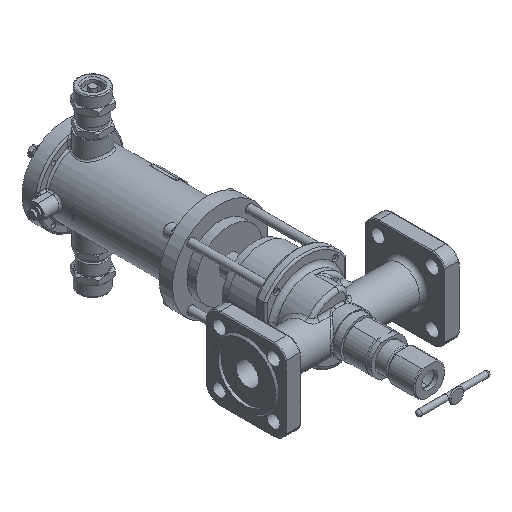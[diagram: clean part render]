
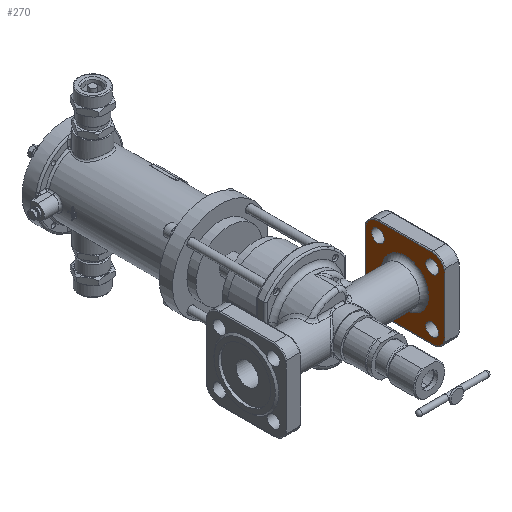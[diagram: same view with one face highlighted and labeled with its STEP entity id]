
A CAD part, isometric view. The second image highlights one B-rep face of the part: STEP entity #270.
In plain terms, the highlighted planar face has unit normal (-1, 0, 0).
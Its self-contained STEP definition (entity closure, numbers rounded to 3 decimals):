
#270=ADVANCED_FACE('',(#7063,#7065,#7067,#7069,#7071,#7073),#7075,.T.);
#7063=FACE_BOUND('',#7064,.T.);
#7064=EDGE_LOOP('',(#22193));
#7065=FACE_BOUND('',#7066,.T.);
#7066=EDGE_LOOP('',(#22194));
#7067=FACE_BOUND('',#7068,.T.);
#7068=EDGE_LOOP('',(#22195));
#7069=FACE_BOUND('',#7070,.T.);
#7070=EDGE_LOOP('',(#22196));
#7071=FACE_BOUND('',#7072,.T.);
#7072=EDGE_LOOP('',(#22197));
#7073=FACE_OUTER_BOUND('',#7074,.T.);
#7074=EDGE_LOOP('',(#22198,#22199,#22200,#22201,#22202,#22203,#22204,#22205));
#7075=PLANE('',#7076);
#7076=AXIS2_PLACEMENT_3D('',#7077,#7078,#7079);
#7077=CARTESIAN_POINT('',(80.,0.,0.));
#7078=DIRECTION('',(-1.,0.,0.));
#7079=DIRECTION('',(0.,1.,0.));
#22193=ORIENTED_EDGE('',*,*,#33857,.F.);
#22194=ORIENTED_EDGE('',*,*,#33908,.T.);
#22195=ORIENTED_EDGE('',*,*,#33909,.T.);
#22196=ORIENTED_EDGE('',*,*,#33910,.T.);
#22197=ORIENTED_EDGE('',*,*,#33911,.T.);
#22198=ORIENTED_EDGE('',*,*,#33912,.T.);
#22199=ORIENTED_EDGE('',*,*,#33913,.T.);
#22200=ORIENTED_EDGE('',*,*,#33914,.T.);
#22201=ORIENTED_EDGE('',*,*,#33915,.T.);
#22202=ORIENTED_EDGE('',*,*,#33916,.T.);
#22203=ORIENTED_EDGE('',*,*,#33917,.T.);
#22204=ORIENTED_EDGE('',*,*,#33918,.T.);
#22205=ORIENTED_EDGE('',*,*,#33919,.T.);
#33857=EDGE_CURVE('',#38986,#38986,#38988,.T.);
#33908=EDGE_CURVE('',#39069,#39069,#39070,.T.);
#33909=EDGE_CURVE('',#39071,#39071,#39072,.T.);
#33910=EDGE_CURVE('',#39073,#39073,#39074,.T.);
#33911=EDGE_CURVE('',#39075,#39075,#39076,.T.);
#33912=EDGE_CURVE('',#39077,#39078,#39079,.F.);
#33913=EDGE_CURVE('',#39078,#39080,#39081,.F.);
#33914=EDGE_CURVE('',#39080,#39082,#39083,.T.);
#33915=EDGE_CURVE('',#39082,#39084,#39085,.F.);
#33916=EDGE_CURVE('',#39084,#39086,#39087,.T.);
#33917=EDGE_CURVE('',#39086,#39088,#39089,.F.);
#33918=EDGE_CURVE('',#39088,#39090,#39091,.T.);
#33919=EDGE_CURVE('',#39090,#39077,#39092,.F.);
#38986=VERTEX_POINT('',#49128);
#38988=CIRCLE('',#49133,26.);
#39069=VERTEX_POINT('',#49702);
#39070=CIRCLE('',#49703,7.);
#39071=VERTEX_POINT('',#49707);
#39072=CIRCLE('',#49708,7.);
#39073=VERTEX_POINT('',#49712);
#39074=CIRCLE('',#49713,7.);
#39075=VERTEX_POINT('',#49717);
#39076=CIRCLE('',#49718,7.);
#39077=VERTEX_POINT('',#49722);
#39078=VERTEX_POINT('',#49723);
#39079=LINE('',#49724,#49725);
#39080=VERTEX_POINT('',#49727);
#39081=CIRCLE('',#49728,14.);
#39082=VERTEX_POINT('',#49732);
#39083=LINE('',#49733,#49734);
#39084=VERTEX_POINT('',#49736);
#39085=CIRCLE('',#49737,14.);
#39086=VERTEX_POINT('',#49741);
#39087=LINE('',#49742,#49743);
#39088=VERTEX_POINT('',#49745);
#39089=CIRCLE('',#49746,14.);
#39090=VERTEX_POINT('',#49750);
#39091=LINE('',#49751,#49752);
#39092=CIRCLE('',#49754,14.);
#49128=CARTESIAN_POINT('',(80.,26.,0.));
#49133=AXIS2_PLACEMENT_3D('',#49134,#49135,#49136);
#49134=CARTESIAN_POINT('',(80.,0.,0.));
#49135=DIRECTION('',(-1.,0.,0.));
#49136=DIRECTION('',(0.,1.,0.));
#49702=CARTESIAN_POINT('',(80.,30.052,37.052));
#49703=AXIS2_PLACEMENT_3D('',#49704,#49705,#49706);
#49704=CARTESIAN_POINT('',(80.,30.052,30.052));
#49705=DIRECTION('',(1.,0.,0.));
#49706=DIRECTION('',(0.,0.,1.));
#49707=CARTESIAN_POINT('',(80.,-30.052,37.052));
#49708=AXIS2_PLACEMENT_3D('',#49709,#49710,#49711);
#49709=CARTESIAN_POINT('',(80.,-30.052,30.052));
#49710=DIRECTION('',(1.,0.,0.));
#49711=DIRECTION('',(0.,0.,1.));
#49712=CARTESIAN_POINT('',(80.,-30.052,-23.052));
#49713=AXIS2_PLACEMENT_3D('',#49714,#49715,#49716);
#49714=CARTESIAN_POINT('',(80.,-30.052,-30.052));
#49715=DIRECTION('',(1.,0.,0.));
#49716=DIRECTION('',(0.,0.,1.));
#49717=CARTESIAN_POINT('',(80.,30.052,-23.052));
#49718=AXIS2_PLACEMENT_3D('',#49719,#49720,#49721);
#49719=CARTESIAN_POINT('',(80.,30.052,-30.052));
#49720=DIRECTION('',(1.,0.,0.));
#49721=DIRECTION('',(0.,0.,1.));
#49722=CARTESIAN_POINT('',(80.,-44.,-30.));
#49723=CARTESIAN_POINT('',(80.,-44.,30.));
#49724=CARTESIAN_POINT('',(80.,-44.,30.));
#49725=VECTOR('',#49726,1.);
#49726=DIRECTION('',(0.,0.,-1.));
#49727=CARTESIAN_POINT('',(80.,-30.,44.));
#49728=AXIS2_PLACEMENT_3D('',#49729,#49730,#49731);
#49729=CARTESIAN_POINT('',(80.,-30.,30.));
#49730=DIRECTION('',(1.,0.,0.));
#49731=DIRECTION('',(0.,0.,1.));
#49732=CARTESIAN_POINT('',(80.,30.,44.));
#49733=CARTESIAN_POINT('',(80.,-30.,44.));
#49734=VECTOR('',#49735,1.);
#49735=DIRECTION('',(0.,1.,0.));
#49736=CARTESIAN_POINT('',(80.,44.,30.));
#49737=AXIS2_PLACEMENT_3D('',#49738,#49739,#49740);
#49738=CARTESIAN_POINT('',(80.,30.,30.));
#49739=DIRECTION('',(1.,0.,0.));
#49740=DIRECTION('',(0.,1.,0.));
#49741=CARTESIAN_POINT('',(80.,44.,-30.));
#49742=CARTESIAN_POINT('',(80.,44.,30.));
#49743=VECTOR('',#49744,1.);
#49744=DIRECTION('',(0.,0.,-1.));
#49745=CARTESIAN_POINT('',(80.,30.,-44.));
#49746=AXIS2_PLACEMENT_3D('',#49747,#49748,#49749);
#49747=CARTESIAN_POINT('',(80.,30.,-30.));
#49748=DIRECTION('',(1.,0.,0.));
#49749=DIRECTION('',(0.,0.,-1.));
#49750=CARTESIAN_POINT('',(80.,-30.,-44.));
#49751=CARTESIAN_POINT('',(80.,30.,-44.));
#49752=VECTOR('',#49753,1.);
#49753=DIRECTION('',(0.,-1.,0.));
#49754=AXIS2_PLACEMENT_3D('',#49755,#49756,#49757);
#49755=CARTESIAN_POINT('',(80.,-30.,-30.));
#49756=DIRECTION('',(1.,0.,0.));
#49757=DIRECTION('',(0.,-1.,0.));
